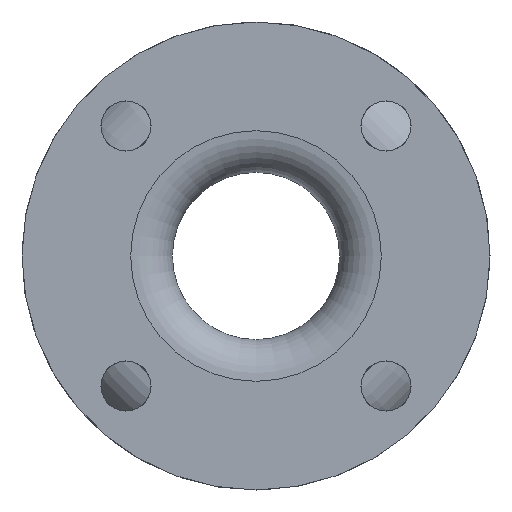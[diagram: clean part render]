
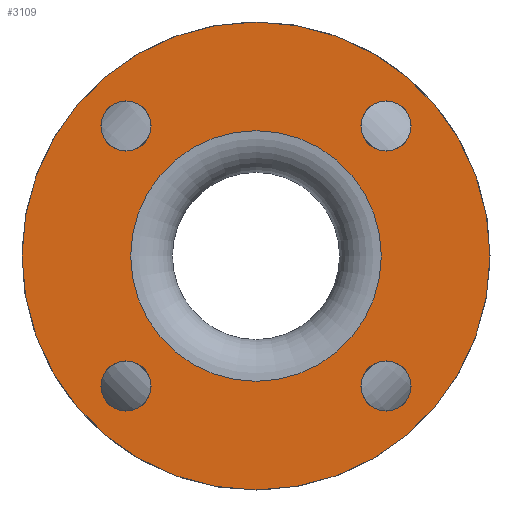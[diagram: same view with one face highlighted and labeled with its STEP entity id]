
A CAD part, left-side view. The second image highlights one B-rep face of the part: STEP entity #3109.
In plain terms, the highlighted planar face has unit normal (-1, 0, 0).
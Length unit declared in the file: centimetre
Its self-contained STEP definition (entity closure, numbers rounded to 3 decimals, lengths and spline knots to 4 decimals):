
#70=FACE_BOUND('',#539,.T.);
#71=FACE_BOUND('',#540,.T.);
#72=FACE_BOUND('',#541,.T.);
#73=FACE_BOUND('',#542,.T.);
#74=FACE_BOUND('',#543,.T.);
#75=FACE_BOUND('',#544,.T.);
#539=EDGE_LOOP('',(#2363));
#540=EDGE_LOOP('',(#2364));
#541=EDGE_LOOP('',(#2365));
#542=EDGE_LOOP('',(#2366));
#543=EDGE_LOOP('',(#2367));
#544=EDGE_LOOP('',(#2368));
#1108=CIRCLE('',#3381,0.9525);
#1110=CIRCLE('',#3384,0.9525);
#1112=CIRCLE('',#3387,0.9525);
#1114=CIRCLE('',#3390,0.9525);
#1134=CIRCLE('',#3425,4.7625);
#1135=CIRCLE('',#3427,8.89);
#1380=VERTEX_POINT('',#5043);
#1382=VERTEX_POINT('',#5048);
#1384=VERTEX_POINT('',#5053);
#1386=VERTEX_POINT('',#5058);
#1406=VERTEX_POINT('',#5113);
#1407=VERTEX_POINT('',#5116);
#1732=EDGE_CURVE('',#1380,#1380,#1108,.T.);
#1734=EDGE_CURVE('',#1382,#1382,#1110,.T.);
#1736=EDGE_CURVE('',#1384,#1384,#1112,.T.);
#1738=EDGE_CURVE('',#1386,#1386,#1114,.T.);
#1758=EDGE_CURVE('',#1406,#1406,#1134,.T.);
#1759=EDGE_CURVE('',#1407,#1407,#1135,.T.);
#2363=ORIENTED_EDGE('',*,*,#1732,.T.);
#2364=ORIENTED_EDGE('',*,*,#1734,.T.);
#2365=ORIENTED_EDGE('',*,*,#1736,.T.);
#2366=ORIENTED_EDGE('',*,*,#1738,.T.);
#2367=ORIENTED_EDGE('',*,*,#1759,.F.);
#2368=ORIENTED_EDGE('',*,*,#1758,.T.);
#2809=PLANE('',#3426);
#3109=ADVANCED_FACE('',(#70,#71,#72,#73,#74,#75),#2809,.T.);
#3381=AXIS2_PLACEMENT_3D('',#5044,#4069,#4070);
#3384=AXIS2_PLACEMENT_3D('',#5049,#4075,#4076);
#3387=AXIS2_PLACEMENT_3D('',#5054,#4081,#4082);
#3390=AXIS2_PLACEMENT_3D('',#5059,#4087,#4088);
#3425=AXIS2_PLACEMENT_3D('',#5114,#4157,#4158);
#3426=AXIS2_PLACEMENT_3D('',#5115,#4159,#4160);
#3427=AXIS2_PLACEMENT_3D('',#5117,#4161,#4162);
#4069=DIRECTION('center_axis',(1.,0.,0.));
#4070=DIRECTION('ref_axis',(0.,0.,1.));
#4075=DIRECTION('center_axis',(1.,0.,0.));
#4076=DIRECTION('ref_axis',(0.,1.,0.));
#4081=DIRECTION('center_axis',(1.,0.,0.));
#4082=DIRECTION('ref_axis',(0.,0.,-1.));
#4087=DIRECTION('center_axis',(1.,0.,0.));
#4088=DIRECTION('ref_axis',(0.,-1.,0.));
#4157=DIRECTION('center_axis',(1.,0.,0.));
#4158=DIRECTION('ref_axis',(0.,0.,-1.));
#4159=DIRECTION('center_axis',(-1.,0.,0.));
#4160=DIRECTION('ref_axis',(0.,0.,1.));
#4161=DIRECTION('center_axis',(1.,0.,0.));
#4162=DIRECTION('ref_axis',(0.,0.,-1.));
#5043=CARTESIAN_POINT('',(-12.7,-4.9391,-5.8916));
#5044=CARTESIAN_POINT('Origin',(-12.7,-4.9391,-4.9391));
#5048=CARTESIAN_POINT('',(-12.7,-5.8916,4.9391));
#5049=CARTESIAN_POINT('Origin',(-12.7,-4.9391,4.9391));
#5053=CARTESIAN_POINT('',(-12.7,4.9391,5.8916));
#5054=CARTESIAN_POINT('Origin',(-12.7,4.9391,4.9391));
#5058=CARTESIAN_POINT('',(-12.7,5.8916,-4.9391));
#5059=CARTESIAN_POINT('Origin',(-12.7,4.9391,-4.9391));
#5113=CARTESIAN_POINT('',(-12.7,4.7625,0.));
#5114=CARTESIAN_POINT('Origin',(-12.7,0.,0.));
#5115=CARTESIAN_POINT('Origin',(-12.7,8.89,0.));
#5116=CARTESIAN_POINT('',(-12.7,8.89,0.));
#5117=CARTESIAN_POINT('Origin',(-12.7,0.,0.));
